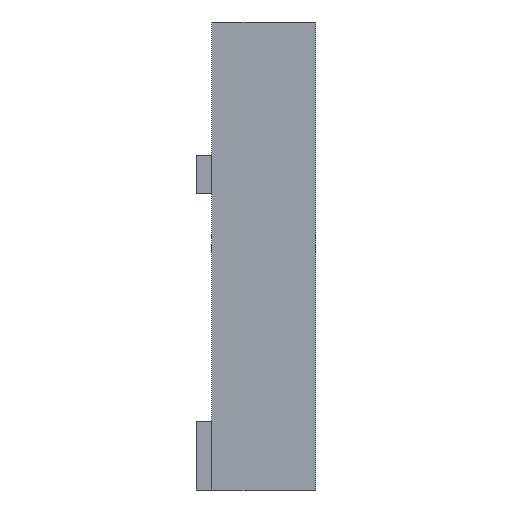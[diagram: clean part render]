
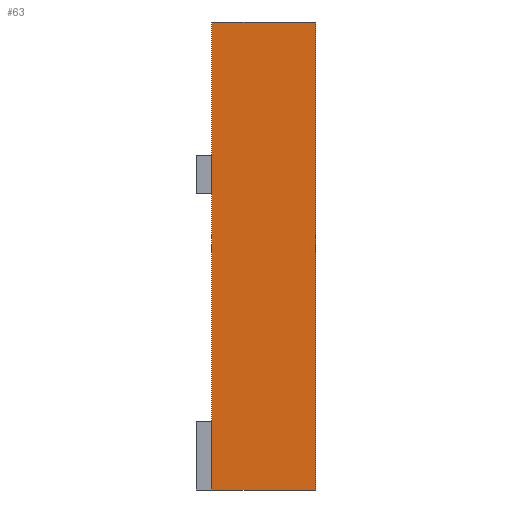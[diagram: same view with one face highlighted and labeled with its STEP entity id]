
A CAD part, left-side view. The second image highlights one B-rep face of the part: STEP entity #63.
In plain terms, the highlighted planar face has unit normal (-1, 0, 0).
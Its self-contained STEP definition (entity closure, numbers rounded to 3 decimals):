
#63 = ADVANCED_FACE('',(#64),#78,.F.);
#64 = FACE_BOUND('',#65,.F.);
#65 = EDGE_LOOP('',(#66,#101,#129,#157));
#66 = ORIENTED_EDGE('',*,*,#67,.F.);
#67 = EDGE_CURVE('',#68,#70,#72,.T.);
#68 = VERTEX_POINT('',#69);
#69 = CARTESIAN_POINT('',(0.,0.,0.));
#70 = VERTEX_POINT('',#71);
#71 = CARTESIAN_POINT('',(0.,0.,550.));
#72 = SURFACE_CURVE('',#73,(#77,#89),.PCURVE_S1.);
#73 = LINE('',#74,#75);
#74 = CARTESIAN_POINT('',(0.,0.,0.));
#75 = VECTOR('',#76,1.);
#76 = DIRECTION('',(0.,0.,1.));
#77 = PCURVE('',#78,#83);
#78 = PLANE('',#79);
#79 = AXIS2_PLACEMENT_3D('',#80,#81,#82);
#80 = CARTESIAN_POINT('',(0.,0.,0.));
#81 = DIRECTION('',(1.,0.,0.));
#82 = DIRECTION('',(0.,0.,1.));
#83 = DEFINITIONAL_REPRESENTATION('',(#84),#88);
#84 = LINE('',#85,#86);
#85 = CARTESIAN_POINT('',(0.,0.));
#86 = VECTOR('',#87,1.);
#87 = DIRECTION('',(1.,0.));
#88 = ( GEOMETRIC_REPRESENTATION_CONTEXT(2) 
PARAMETRIC_REPRESENTATION_CONTEXT() REPRESENTATION_CONTEXT('2D SPACE',''
  ) );
#89 = PCURVE('',#90,#95);
#90 = PLANE('',#91);
#91 = AXIS2_PLACEMENT_3D('',#92,#93,#94);
#92 = CARTESIAN_POINT('',(0.,0.,0.));
#93 = DIRECTION('',(0.,1.,0.));
#94 = DIRECTION('',(0.,0.,1.));
#95 = DEFINITIONAL_REPRESENTATION('',(#96),#100);
#96 = LINE('',#97,#98);
#97 = CARTESIAN_POINT('',(0.,0.));
#98 = VECTOR('',#99,1.);
#99 = DIRECTION('',(1.,0.));
#100 = ( GEOMETRIC_REPRESENTATION_CONTEXT(2) 
PARAMETRIC_REPRESENTATION_CONTEXT() REPRESENTATION_CONTEXT('2D SPACE',''
  ) );
#101 = ORIENTED_EDGE('',*,*,#102,.T.);
#102 = EDGE_CURVE('',#68,#103,#105,.T.);
#103 = VERTEX_POINT('',#104);
#104 = CARTESIAN_POINT('',(0.,122.,0.));
#105 = SURFACE_CURVE('',#106,(#110,#117),.PCURVE_S1.);
#106 = LINE('',#107,#108);
#107 = CARTESIAN_POINT('',(0.,0.,0.));
#108 = VECTOR('',#109,1.);
#109 = DIRECTION('',(0.,1.,0.));
#110 = PCURVE('',#78,#111);
#111 = DEFINITIONAL_REPRESENTATION('',(#112),#116);
#112 = LINE('',#113,#114);
#113 = CARTESIAN_POINT('',(0.,0.));
#114 = VECTOR('',#115,1.);
#115 = DIRECTION('',(0.,-1.));
#116 = ( GEOMETRIC_REPRESENTATION_CONTEXT(2) 
PARAMETRIC_REPRESENTATION_CONTEXT() REPRESENTATION_CONTEXT('2D SPACE',''
  ) );
#117 = PCURVE('',#118,#123);
#118 = PLANE('',#119);
#119 = AXIS2_PLACEMENT_3D('',#120,#121,#122);
#120 = CARTESIAN_POINT('',(0.,0.,0.));
#121 = DIRECTION('',(0.,0.,1.));
#122 = DIRECTION('',(1.,0.,0.));
#123 = DEFINITIONAL_REPRESENTATION('',(#124),#128);
#124 = LINE('',#125,#126);
#125 = CARTESIAN_POINT('',(0.,0.));
#126 = VECTOR('',#127,1.);
#127 = DIRECTION('',(0.,1.));
#128 = ( GEOMETRIC_REPRESENTATION_CONTEXT(2) 
PARAMETRIC_REPRESENTATION_CONTEXT() REPRESENTATION_CONTEXT('2D SPACE',''
  ) );
#129 = ORIENTED_EDGE('',*,*,#130,.T.);
#130 = EDGE_CURVE('',#103,#131,#133,.T.);
#131 = VERTEX_POINT('',#132);
#132 = CARTESIAN_POINT('',(0.,122.,550.));
#133 = SURFACE_CURVE('',#134,(#138,#145),.PCURVE_S1.);
#134 = LINE('',#135,#136);
#135 = CARTESIAN_POINT('',(0.,122.,0.));
#136 = VECTOR('',#137,1.);
#137 = DIRECTION('',(0.,0.,1.));
#138 = PCURVE('',#78,#139);
#139 = DEFINITIONAL_REPRESENTATION('',(#140),#144);
#140 = LINE('',#141,#142);
#141 = CARTESIAN_POINT('',(0.,-122.));
#142 = VECTOR('',#143,1.);
#143 = DIRECTION('',(1.,0.));
#144 = ( GEOMETRIC_REPRESENTATION_CONTEXT(2) 
PARAMETRIC_REPRESENTATION_CONTEXT() REPRESENTATION_CONTEXT('2D SPACE',''
  ) );
#145 = PCURVE('',#146,#151);
#146 = PLANE('',#147);
#147 = AXIS2_PLACEMENT_3D('',#148,#149,#150);
#148 = CARTESIAN_POINT('',(0.,122.,0.));
#149 = DIRECTION('',(0.,1.,0.));
#150 = DIRECTION('',(0.,0.,1.));
#151 = DEFINITIONAL_REPRESENTATION('',(#152),#156);
#152 = LINE('',#153,#154);
#153 = CARTESIAN_POINT('',(0.,0.));
#154 = VECTOR('',#155,1.);
#155 = DIRECTION('',(1.,0.));
#156 = ( GEOMETRIC_REPRESENTATION_CONTEXT(2) 
PARAMETRIC_REPRESENTATION_CONTEXT() REPRESENTATION_CONTEXT('2D SPACE',''
  ) );
#157 = ORIENTED_EDGE('',*,*,#158,.F.);
#158 = EDGE_CURVE('',#70,#131,#159,.T.);
#159 = SURFACE_CURVE('',#160,(#164,#171),.PCURVE_S1.);
#160 = LINE('',#161,#162);
#161 = CARTESIAN_POINT('',(0.,0.,550.));
#162 = VECTOR('',#163,1.);
#163 = DIRECTION('',(0.,1.,0.));
#164 = PCURVE('',#78,#165);
#165 = DEFINITIONAL_REPRESENTATION('',(#166),#170);
#166 = LINE('',#167,#168);
#167 = CARTESIAN_POINT('',(550.,0.));
#168 = VECTOR('',#169,1.);
#169 = DIRECTION('',(0.,-1.));
#170 = ( GEOMETRIC_REPRESENTATION_CONTEXT(2) 
PARAMETRIC_REPRESENTATION_CONTEXT() REPRESENTATION_CONTEXT('2D SPACE',''
  ) );
#171 = PCURVE('',#172,#177);
#172 = PLANE('',#173);
#173 = AXIS2_PLACEMENT_3D('',#174,#175,#176);
#174 = CARTESIAN_POINT('',(0.,0.,550.));
#175 = DIRECTION('',(0.,0.,1.));
#176 = DIRECTION('',(1.,0.,0.));
#177 = DEFINITIONAL_REPRESENTATION('',(#178),#182);
#178 = LINE('',#179,#180);
#179 = CARTESIAN_POINT('',(0.,0.));
#180 = VECTOR('',#181,1.);
#181 = DIRECTION('',(0.,1.));
#182 = ( GEOMETRIC_REPRESENTATION_CONTEXT(2) 
PARAMETRIC_REPRESENTATION_CONTEXT() REPRESENTATION_CONTEXT('2D SPACE',''
  ) );
